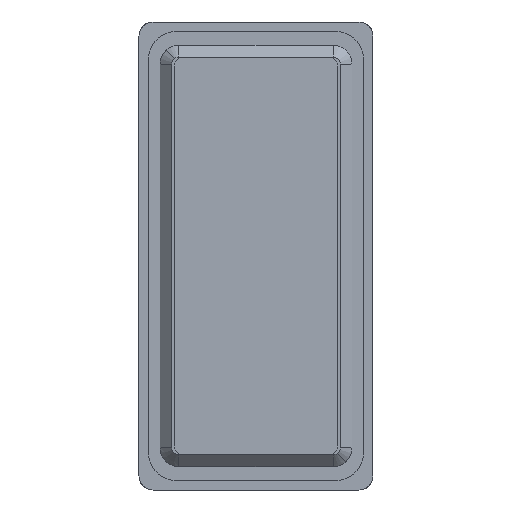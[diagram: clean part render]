
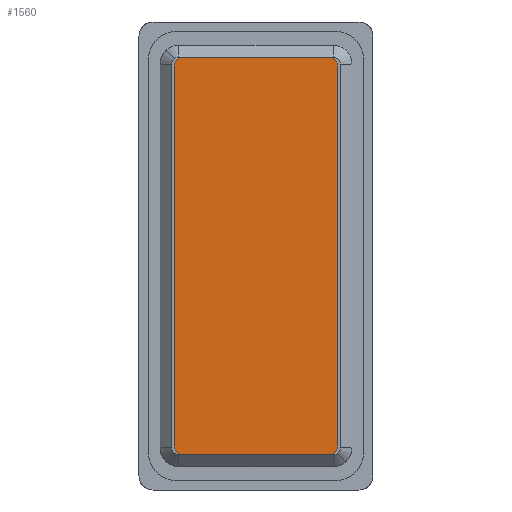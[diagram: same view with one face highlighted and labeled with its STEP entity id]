
A CAD part, front view. The second image highlights one B-rep face of the part: STEP entity #1560.
In plain terms, the highlighted planar face has unit normal (0, -1, 0).
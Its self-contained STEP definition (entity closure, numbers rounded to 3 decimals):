
#59=PLANE('',#1659);
#109=FACE_OUTER_BOUND('',#204,.T.);
#204=EDGE_LOOP('',(#1057,#1058,#1059,#1060,#1061,#1062,#1063,#1064));
#306=LINE('',#2266,#455);
#307=LINE('',#2270,#456);
#308=LINE('',#2274,#457);
#309=LINE('',#2277,#458);
#455=VECTOR('',#1817,81.);
#456=VECTOR('',#1820,31.);
#457=VECTOR('',#1823,81.);
#458=VECTOR('',#1826,31.);
#602=CIRCLE('',#1657,2.);
#604=CIRCLE('',#1660,2.);
#605=CIRCLE('',#1661,2.);
#606=CIRCLE('',#1662,2.);
#666=VERTEX_POINT('',#2256);
#667=VERTEX_POINT('',#2257);
#670=VERTEX_POINT('',#2265);
#671=VERTEX_POINT('',#2267);
#672=VERTEX_POINT('',#2269);
#673=VERTEX_POINT('',#2271);
#674=VERTEX_POINT('',#2273);
#675=VERTEX_POINT('',#2275);
#816=EDGE_CURVE('',#666,#667,#602,.T.);
#820=EDGE_CURVE('',#667,#670,#306,.T.);
#821=EDGE_CURVE('',#670,#671,#604,.T.);
#822=EDGE_CURVE('',#671,#672,#307,.T.);
#823=EDGE_CURVE('',#672,#673,#605,.T.);
#824=EDGE_CURVE('',#673,#674,#308,.T.);
#825=EDGE_CURVE('',#674,#675,#606,.T.);
#826=EDGE_CURVE('',#675,#666,#309,.T.);
#1057=ORIENTED_EDGE('',*,*,#816,.T.);
#1058=ORIENTED_EDGE('',*,*,#820,.T.);
#1059=ORIENTED_EDGE('',*,*,#821,.T.);
#1060=ORIENTED_EDGE('',*,*,#822,.T.);
#1061=ORIENTED_EDGE('',*,*,#823,.T.);
#1062=ORIENTED_EDGE('',*,*,#824,.T.);
#1063=ORIENTED_EDGE('',*,*,#825,.T.);
#1064=ORIENTED_EDGE('',*,*,#826,.T.);
#1560=ADVANCED_FACE('',(#109),#59,.F.);
#1657=AXIS2_PLACEMENT_3D('',#2258,#1809,#1810);
#1659=AXIS2_PLACEMENT_3D('',#2264,#1815,#1816);
#1660=AXIS2_PLACEMENT_3D('',#2268,#1818,#1819);
#1661=AXIS2_PLACEMENT_3D('',#2272,#1821,#1822);
#1662=AXIS2_PLACEMENT_3D('',#2276,#1824,#1825);
#1809=DIRECTION('center_axis',(0.,-1.,0.));
#1810=DIRECTION('ref_axis',(0.707,0.,-0.707));
#1815=DIRECTION('center_axis',(0.,1.,0.));
#1816=DIRECTION('ref_axis',(0.,0.,1.));
#1817=DIRECTION('',(0.,0.,1.));
#1818=DIRECTION('center_axis',(0.,-1.,0.));
#1819=DIRECTION('ref_axis',(0.707,0.,0.707));
#1820=DIRECTION('',(-1.,0.,0.));
#1821=DIRECTION('center_axis',(0.,-1.,0.));
#1822=DIRECTION('ref_axis',(-0.707,0.,0.707));
#1823=DIRECTION('',(0.,0.,-1.));
#1824=DIRECTION('center_axis',(0.,-1.,0.));
#1825=DIRECTION('ref_axis',(-0.707,0.,-0.707));
#1826=DIRECTION('',(1.,0.,0.));
#2256=CARTESIAN_POINT('',(15.5,0.,-42.5));
#2257=CARTESIAN_POINT('',(17.5,0.,-40.5));
#2258=CARTESIAN_POINT('Origin',(15.5,0.,-40.5));
#2264=CARTESIAN_POINT('Origin',(0.,0.,0.));
#2265=CARTESIAN_POINT('',(17.5,0.,40.5));
#2266=CARTESIAN_POINT('',(17.5,0.,21.25));
#2267=CARTESIAN_POINT('',(15.5,0.,42.5));
#2268=CARTESIAN_POINT('Origin',(15.5,0.,40.5));
#2269=CARTESIAN_POINT('',(-15.5,0.,42.5));
#2270=CARTESIAN_POINT('',(-8.75,0.,42.5));
#2271=CARTESIAN_POINT('',(-17.5,0.,40.5));
#2272=CARTESIAN_POINT('Origin',(-15.5,0.,40.5));
#2273=CARTESIAN_POINT('',(-17.5,0.,-40.5));
#2274=CARTESIAN_POINT('',(-17.5,0.,-21.25));
#2275=CARTESIAN_POINT('',(-15.5,0.,-42.5));
#2276=CARTESIAN_POINT('Origin',(-15.5,0.,-40.5));
#2277=CARTESIAN_POINT('',(8.75,0.,-42.5));
